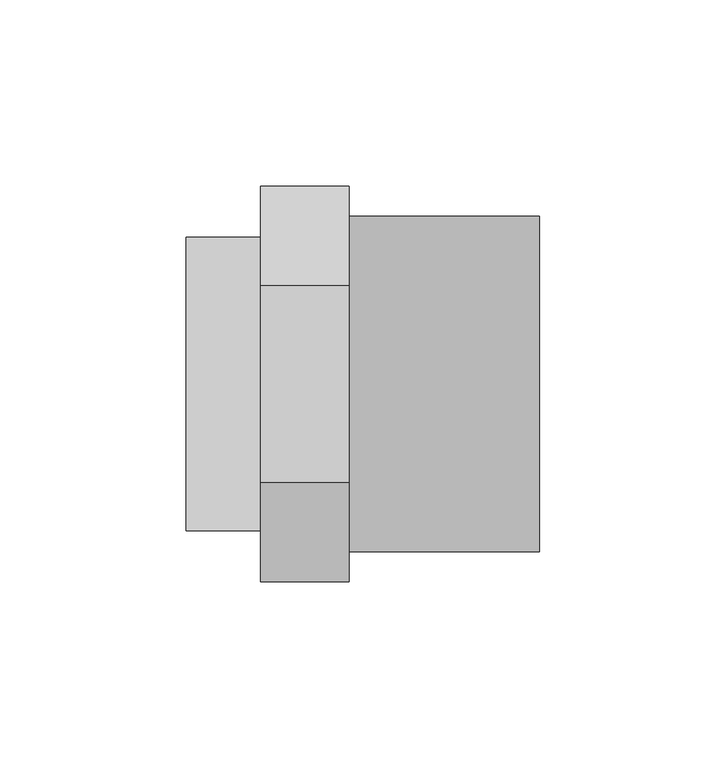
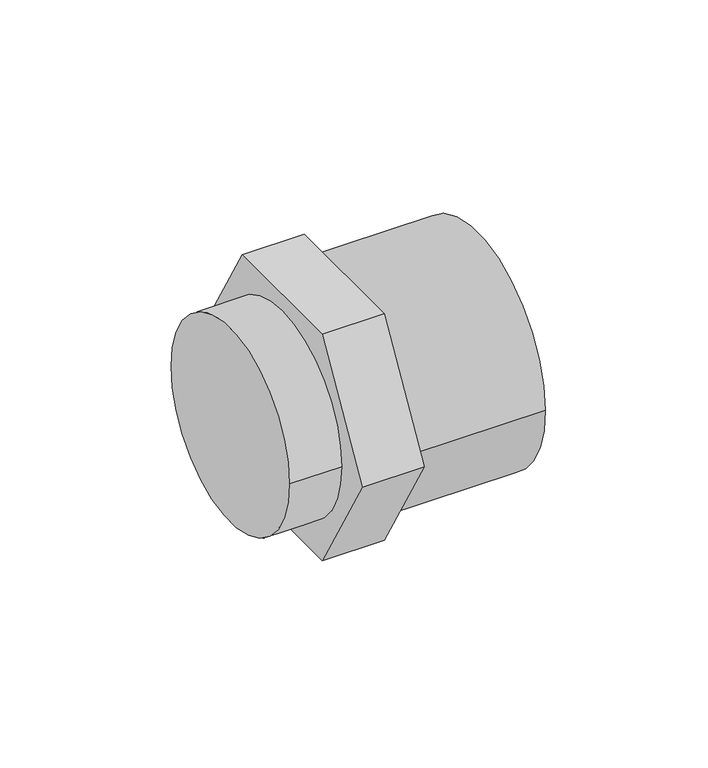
"""IFC4 building model written with IfcOpenShell, lengths in millimetres: pipe fitting geometry, 01101008_ : Uniões múltiplas F/M/F."""

from ifc_helpers import new_model, si_unit, point, frame, origin, origin_2d, place, context, project, spatial, polyline, circle_curve, trimmed, segment, composite_curve, outline, extrude, source, transform, mapped, element, save


def pipe_fitting_421af50c(model_context):
    return source(origin(), model_context, "Body", "SweptSolid", [
        extrude(outline(composite_curve([segment(trimmed(circle_curve(origin_2d(), 39.375), [point((39.375, 0.0))], [point((-39.375, 0.0))], False, "CARTESIAN"), True, "CONTINUOUS"), segment(trimmed(circle_curve(origin_2d(), 39.375), [point((-39.375, 0.0))], [point((39.375, 0.0))], False, "CARTESIAN"), True, "CONTINUOUS")], self_intersect=False)), frame((0.0, 0.0, 0.0), z_axis=(1.0, 0.0, 0.0), x_axis=(0.0, 1.0, 0.0)), (0.0, 0.0, 1.0), 20.0),
        extrude(outline(polyline([(-26.5581124, 46.0), (26.5581124, 46.0), (53.1162248, 0.0), (26.5581124, -46.0), (-26.5581124, -46.0), (-53.1162248, 0.0), (-26.5581124, 46.0)])), frame((20.0, 0.0, 0.0), z_axis=(1.0, 0.0, 0.0), x_axis=(0.0, 1.0, 0.0)), (0.0, 0.0, 1.0), 23.75),
        extrude(outline(composite_curve([segment(trimmed(circle_curve(origin_2d(), 45.0), [point((-45.0, 0.0))], [point((45.0, 0.0))], False, "CARTESIAN"), True, "CONTINUOUS"), segment(trimmed(circle_curve(origin_2d(), 45.0), [point((45.0, 0.0))], [point((-45.0, 0.0))], False, "CARTESIAN"), True, "CONTINUOUS")], self_intersect=False)), frame((43.75, 0.0, 0.0), z_axis=(1.0, 0.0, 0.0), x_axis=(0.0, 1.0, 0.0)), (0.0, 0.0, 1.0), 51.25),
    ])


if __name__ == "__main__":
    model = new_model("IFC4")
    model_context = context("Model", 3, world=origin())
    ifc_project = project(units=[si_unit("LENGTHUNIT", "METRE", prefix="MILLI")], contexts=[model_context])
    site = spatial("IfcSite", under=ifc_project)
    building = spatial("IfcBuilding", under=site)
    placement = place(None, origin())
    pipe_fitting_shape = pipe_fitting_421af50c(model_context)
    element("IfcPipeFitting", 1, ObjectType="01101008_ : Uniões múltiplas F/M/F", at=placement, inside=building, context=model_context, shape_type="MappedRepresentation", body=[
        mapped(pipe_fitting_shape, transform((0.0, 0.0, 0.0), x_axis=(1.0, 0.0, 0.0), y_axis=(0.0, 1.0, 0.0), z_axis=(0.0, 0.0, 1.0))),
    ])
    save(model, "model.ifc")
